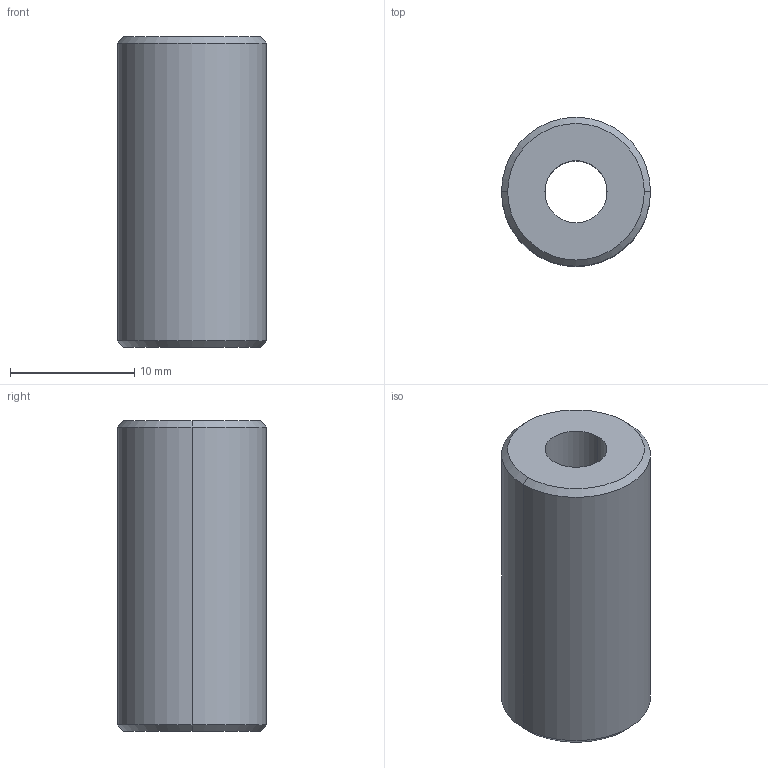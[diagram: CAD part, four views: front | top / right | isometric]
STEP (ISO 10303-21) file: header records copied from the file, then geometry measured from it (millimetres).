
FILE_DESCRIPTION (( 'STEP AP203' ), '1' );
FILE_NAME ('PHSP12-1A.step', '2019-05-09T09:07:37', ( '' ), ( '' ), 'SwSTEP 2.0', 'SolidWorks 2016', '' );
FILE_SCHEMA (( 'CONFIG_CONTROL_DESIGN' ));
Length unit declared in the file: millimetre
Products named in the file (1): PHSP12-1A
Bounding box: 12 x 12 x 25 mm (x, y, z)
Volume: 2327.4 mm3; surface area: 1499.4 mm2
Topology: 1 solids, 1 shells, 10 faces, 20 edges, 12 vertices
Faces by surface type: cone 4, cylinder 4, plane 2
Entity records: 345 total; most frequent: DIRECTION 54, CARTESIAN_POINT 43, ORIENTED_EDGE 40, AXIS2_PLACEMENT_3D 23, EDGE_CURVE 20, VERTEX_POINT 12, EDGE_LOOP 12, CIRCLE 12
